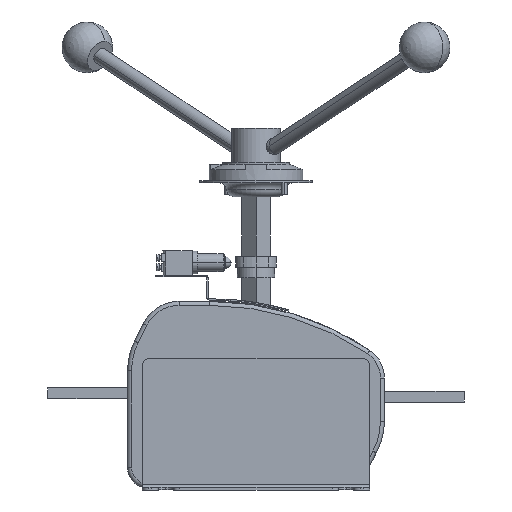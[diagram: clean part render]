
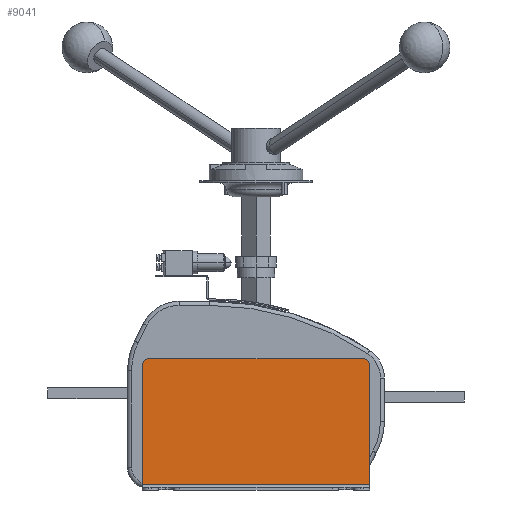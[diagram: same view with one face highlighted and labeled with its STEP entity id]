
A CAD part, left-side view. The second image highlights one B-rep face of the part: STEP entity #9041.
In plain terms, the highlighted planar face has unit normal (-1, 0, 0).
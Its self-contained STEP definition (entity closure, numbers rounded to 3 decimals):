
#343 = DIRECTION ( 'NONE',  ( -1., 0., 0. ) ) ;
#753 = EDGE_CURVE ( 'NONE', #18121, #12358, #18074, .T. ) ;
#792 = EDGE_CURVE ( 'NONE', #1773, #12084, #3138, .T. ) ;
#1357 = CIRCLE ( 'NONE', #4915, 5. ) ;
#1377 = CIRCLE ( 'NONE', #14560, 5. ) ;
#1727 = CARTESIAN_POINT ( 'NONE',  ( -276.61, 80., 27. ) ) ;
#1773 = VERTEX_POINT ( 'NONE', #7771 ) ;
#2483 = VECTOR ( 'NONE', #4596, 1000. ) ;
#2915 = DIRECTION ( 'NONE',  ( 0., 1., 0. ) ) ;
#3028 = EDGE_CURVE ( 'NONE', #12084, #18121, #1377, .T. ) ;
#3138 = LINE ( 'NONE', #12926, #2483 ) ;
#3503 = AXIS2_PLACEMENT_3D ( 'NONE', #13485, #14765, #13299 ) ;
#3650 = CARTESIAN_POINT ( 'NONE',  ( -276.61, -85., 22. ) ) ;
#3785 = ORIENTED_EDGE ( 'NONE', *, *, #792, .T. ) ;
#4173 = CARTESIAN_POINT ( 'NONE',  ( -276.61, -80., 22. ) ) ;
#4434 = CARTESIAN_POINT ( 'NONE',  ( -276.61, 85., -67. ) ) ;
#4531 = EDGE_CURVE ( 'NONE', #11446, #11704, #13930, .T. ) ;
#4596 = DIRECTION ( 'NONE',  ( 0., 0., 1. ) ) ;
#4690 = ORIENTED_EDGE ( 'NONE', *, *, #12763, .T. ) ;
#4915 = AXIS2_PLACEMENT_3D ( 'NONE', #17330, #343, #6030 ) ;
#5824 = ORIENTED_EDGE ( 'NONE', *, *, #753, .T. ) ;
#6030 = DIRECTION ( 'NONE',  ( 0., 0., 1. ) ) ;
#7028 = DIRECTION ( 'NONE',  ( 0., 0., 1. ) ) ;
#7298 = CARTESIAN_POINT ( 'NONE',  ( -276.61, -85., 27. ) ) ;
#7514 = VECTOR ( 'NONE', #2915, 1000. ) ;
#7771 = CARTESIAN_POINT ( 'NONE',  ( -276.61, -85., -67. ) ) ;
#8497 = CARTESIAN_POINT ( 'NONE',  ( -276.61, -85., -67. ) ) ;
#8619 = FACE_OUTER_BOUND ( 'NONE', #16014, .T. ) ;
#8921 = CARTESIAN_POINT ( 'NONE',  ( -276.61, 85., -67. ) ) ;
#9041 = ADVANCED_FACE ( 'NONE', ( #8619 ), #13359, .T. ) ;
#9242 = EDGE_CURVE ( 'NONE', #1773, #11446, #15421, .T. ) ;
#10925 = ORIENTED_EDGE ( 'NONE', *, *, #3028, .T. ) ;
#11297 = ORIENTED_EDGE ( 'NONE', *, *, #9242, .F. ) ;
#11446 = VERTEX_POINT ( 'NONE', #8921 ) ;
#11704 = VERTEX_POINT ( 'NONE', #12525 ) ;
#11772 = ORIENTED_EDGE ( 'NONE', *, *, #4531, .F. ) ;
#12084 = VERTEX_POINT ( 'NONE', #3650 ) ;
#12358 = VERTEX_POINT ( 'NONE', #1727 ) ;
#12425 = DIRECTION ( 'NONE',  ( 0., 0., 1. ) ) ;
#12525 = CARTESIAN_POINT ( 'NONE',  ( -276.61, 85., 22. ) ) ;
#12763 = EDGE_CURVE ( 'NONE', #12358, #11704, #1357, .T. ) ;
#12926 = CARTESIAN_POINT ( 'NONE',  ( -276.61, -85., -67. ) ) ;
#13299 = DIRECTION ( 'NONE',  ( 0., 0., 1. ) ) ;
#13359 = PLANE ( 'NONE',  #3503 ) ;
#13485 = CARTESIAN_POINT ( 'NONE',  ( -276.61, -85., -67. ) ) ;
#13930 = LINE ( 'NONE', #4434, #14805 ) ;
#14560 = AXIS2_PLACEMENT_3D ( 'NONE', #4173, #16793, #12425 ) ;
#14765 = DIRECTION ( 'NONE',  ( -1., 0., 0. ) ) ;
#14805 = VECTOR ( 'NONE', #7028, 1000. ) ;
#15421 = LINE ( 'NONE', #8497, #7514 ) ;
#15793 = CARTESIAN_POINT ( 'NONE',  ( -276.61, -80., 27. ) ) ;
#16014 = EDGE_LOOP ( 'NONE', ( #3785, #10925, #5824, #4690, #11772, #11297 ) ) ;
#16793 = DIRECTION ( 'NONE',  ( -1., 0., 0. ) ) ;
#17172 = DIRECTION ( 'NONE',  ( 0., 1., 0. ) ) ;
#17330 = CARTESIAN_POINT ( 'NONE',  ( -276.61, 80., 22. ) ) ;
#17615 = VECTOR ( 'NONE', #17172, 1000. ) ;
#18074 = LINE ( 'NONE', #7298, #17615 ) ;
#18121 = VERTEX_POINT ( 'NONE', #15793 ) ;
